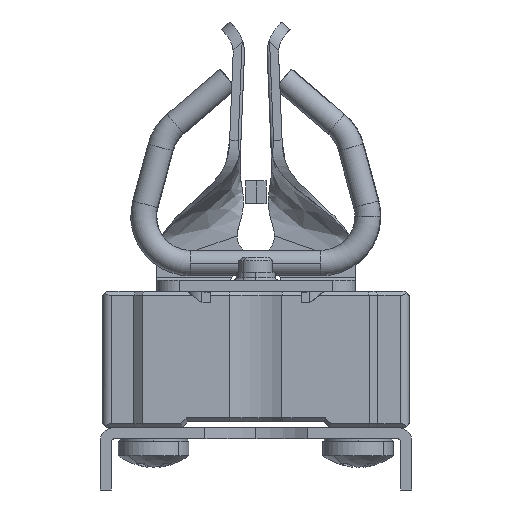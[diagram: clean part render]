
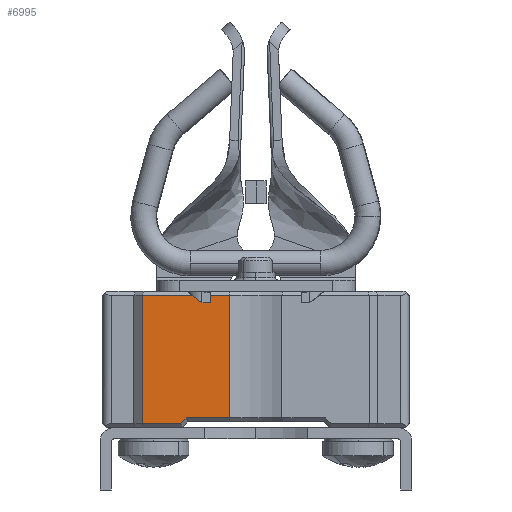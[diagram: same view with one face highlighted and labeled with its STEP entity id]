
A CAD part, left-side view. The second image highlights one B-rep face of the part: STEP entity #6995.
In plain terms, the highlighted planar face has unit normal (-1, 0, 0).
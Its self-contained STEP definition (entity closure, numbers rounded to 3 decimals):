
#6819 = ORIENTED_EDGE ( 'NONE', *, *, #6820, .T. ) ;
#6820 = EDGE_CURVE ( 'NONE', #6997, #6996, #19783, .T. ) ;
#6823 = ORIENTED_EDGE ( 'NONE', *, *, #6824, .F. ) ;
#6824 = EDGE_CURVE ( 'NONE', #6825, #6991, #19857, .T. ) ;
#6825 = VERTEX_POINT ( 'NONE', #19853 ) ;
#6830 = ORIENTED_EDGE ( 'NONE', *, *, #6832, .T. ) ;
#6832 = EDGE_CURVE ( 'NONE', #6993, #6835, #19914, .T. ) ;
#6835 = VERTEX_POINT ( 'NONE', #19910 ) ;
#6843 = ORIENTED_EDGE ( 'NONE', *, *, #6844, .T. ) ;
#6844 = EDGE_CURVE ( 'NONE', #6825, #6997, #19900, .T. ) ;
#6850 = ORIENTED_EDGE ( 'NONE', *, *, #6851, .T. ) ;
#6851 = EDGE_CURVE ( 'NONE', #6996, #6993, #19891, .T. ) ;
#6986 = EDGE_LOOP ( 'NONE', ( #6819, #6850, #6830, #6987, #6823, #6843 ) ) ;
#6987 = ORIENTED_EDGE ( 'NONE', *, *, #6989, .T. ) ;
#6989 = EDGE_CURVE ( 'NONE', #6835, #6991, #20054, .T. ) ;
#6991 = VERTEX_POINT ( 'NONE', #20050 ) ;
#6993 = VERTEX_POINT ( 'NONE', #20049 ) ;
#6995 = ADVANCED_FACE ( 'NONE', ( #20048 ), #20120, .F. ) ;
#6996 = VERTEX_POINT ( 'NONE', #20208 ) ;
#6997 = VERTEX_POINT ( 'NONE', #20207 ) ;
#19783 = LINE ( 'NONE', #19860, #19859 ) ;
#19853 = CARTESIAN_POINT ( 'NONE',  ( -2.025, 47.527, 0.7 ) ) ;
#19854 = DIRECTION ( 'NONE',  ( 0., 0., 1. ) ) ;
#19855 = VECTOR ( 'NONE', #19854, 1000. ) ;
#19856 = CARTESIAN_POINT ( 'NONE',  ( -2.025, 47.527, 0. ) ) ;
#19857 = LINE ( 'NONE', #19856, #19855 ) ;
#19858 = DIRECTION ( 'NONE',  ( 0., -0.707, 0.707 ) ) ;
#19859 = VECTOR ( 'NONE', #19858, 1000. ) ;
#19860 = CARTESIAN_POINT ( 'NONE',  ( -2.025, 40.022, 1.495 ) ) ;
#19888 = DIRECTION ( 'NONE',  ( 0., -1., 0. ) ) ;
#19889 = VECTOR ( 'NONE', #19888, 1000. ) ;
#19890 = CARTESIAN_POINT ( 'NONE',  ( -2.025, 47.527, 1.7 ) ) ;
#19891 = LINE ( 'NONE', #19890, #19889 ) ;
#19897 = DIRECTION ( 'NONE',  ( 0., -1., 0. ) ) ;
#19898 = VECTOR ( 'NONE', #19897, 1000. ) ;
#19899 = CARTESIAN_POINT ( 'NONE',  ( -2.025, 47.527, 0.7 ) ) ;
#19900 = LINE ( 'NONE', #19899, #19898 ) ;
#19910 = CARTESIAN_POINT ( 'NONE',  ( -2.025, 32.11, 23.3 ) ) ;
#19911 = VECTOR ( 'NONE', #19912, 1000. ) ;
#19912 = DIRECTION ( 'NONE',  ( 0., 0., 1. ) ) ;
#19913 = CARTESIAN_POINT ( 'NONE',  ( -2.025, 32.11, 24. ) ) ;
#19914 = LINE ( 'NONE', #19913, #19911 ) ;
#20048 = FACE_OUTER_BOUND ( 'NONE', #6986, .T. ) ;
#20049 = CARTESIAN_POINT ( 'NONE',  ( -2.025, 32.11, 1.7 ) ) ;
#20050 = CARTESIAN_POINT ( 'NONE',  ( -2.025, 47.527, 23.3 ) ) ;
#20051 = DIRECTION ( 'NONE',  ( 0., 1., 0. ) ) ;
#20052 = VECTOR ( 'NONE', #20051, 1000. ) ;
#20053 = CARTESIAN_POINT ( 'NONE',  ( -2.025, 47.527, 23.3 ) ) ;
#20054 = LINE ( 'NONE', #20053, #20052 ) ;
#20116 = DIRECTION ( 'NONE',  ( 0., 0., 1. ) ) ;
#20117 = DIRECTION ( 'NONE',  ( 1., 0., 0. ) ) ;
#20118 = CARTESIAN_POINT ( 'NONE',  ( -2.025, 47.527, 0. ) ) ;
#20119 = AXIS2_PLACEMENT_3D ( 'NONE', #20118, #20117, #20116 ) ;
#20120 = PLANE ( 'NONE',  #20119 ) ;
#20207 = CARTESIAN_POINT ( 'NONE',  ( -2.025, 40.817, 0.7 ) ) ;
#20208 = CARTESIAN_POINT ( 'NONE',  ( -2.025, 39.817, 1.7 ) ) ;
